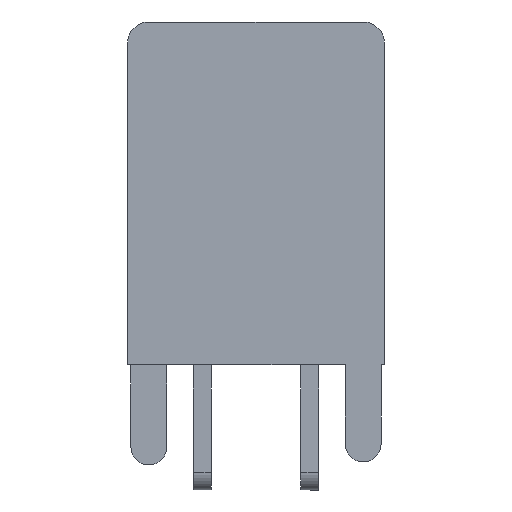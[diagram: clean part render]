
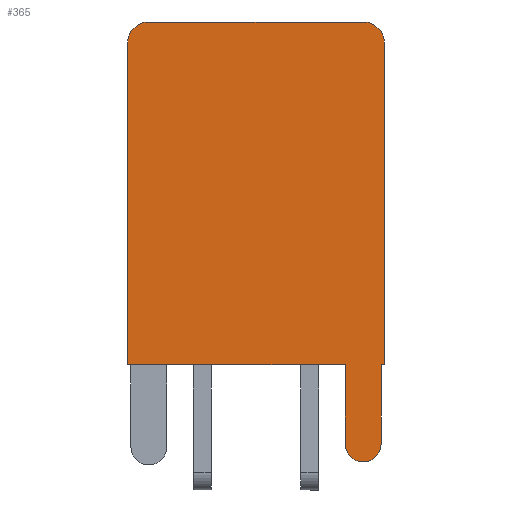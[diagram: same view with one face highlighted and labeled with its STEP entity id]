
A CAD part, left-side view. The second image highlights one B-rep face of the part: STEP entity #365.
In plain terms, the highlighted planar face has unit normal (-1, 0, 0).
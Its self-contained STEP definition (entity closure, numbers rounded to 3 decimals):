
#15 = EDGE_CURVE ( 'NONE', #16, #173, #974, .T. ) ;
#16 = VERTEX_POINT ( 'NONE', #970 ) ;
#24 = EDGE_CURVE ( 'NONE', #25, #77, #883, .T. ) ;
#25 = VERTEX_POINT ( 'NONE', #928 ) ;
#77 = VERTEX_POINT ( 'NONE', #1145 ) ;
#160 = EDGE_CURVE ( 'NONE', #161, #268, #1304, .T. ) ;
#161 = VERTEX_POINT ( 'NONE', #1209 ) ;
#162 = ORIENTED_EDGE ( 'NONE', *, *, #163, .T. ) ;
#163 = EDGE_CURVE ( 'NONE', #173, #164, #1335, .T. ) ;
#164 = VERTEX_POINT ( 'NONE', #1331 ) ;
#173 = VERTEX_POINT ( 'NONE', #1226 ) ;
#256 = EDGE_CURVE ( 'NONE', #164, #257, #1447, .T. ) ;
#257 = VERTEX_POINT ( 'NONE', #1369 ) ;
#258 = EDGE_LOOP ( 'NONE', ( #275, #261, #329, #358, #162, #264, #283, #330, #321, #270 ) ) ;
#259 = EDGE_CURVE ( 'NONE', #269, #268, #1368, .T. ) ;
#261 = ORIENTED_EDGE ( 'NONE', *, *, #262, .T. ) ;
#262 = EDGE_CURVE ( 'NONE', #161, #266, #1411, .T. ) ;
#264 = ORIENTED_EDGE ( 'NONE', *, *, #256, .T. ) ;
#266 = VERTEX_POINT ( 'NONE', #1400 ) ;
#268 = VERTEX_POINT ( 'NONE', #1398 ) ;
#269 = VERTEX_POINT ( 'NONE', #1397 ) ;
#270 = ORIENTED_EDGE ( 'NONE', *, *, #259, .T. ) ;
#275 = ORIENTED_EDGE ( 'NONE', *, *, #160, .F. ) ;
#283 = ORIENTED_EDGE ( 'NONE', *, *, #284, .T. ) ;
#284 = EDGE_CURVE ( 'NONE', #257, #25, #2971, .T. ) ;
#317 = EDGE_CURVE ( 'NONE', #269, #77, #3040, .T. ) ;
#321 = ORIENTED_EDGE ( 'NONE', *, *, #317, .F. ) ;
#329 = ORIENTED_EDGE ( 'NONE', *, *, #397, .T. ) ;
#330 = ORIENTED_EDGE ( 'NONE', *, *, #24, .T. ) ;
#358 = ORIENTED_EDGE ( 'NONE', *, *, #15, .T. ) ;
#365 = ADVANCED_FACE ( 'NONE', ( #1509 ), #1547, .F. ) ;
#397 = EDGE_CURVE ( 'NONE', #266, #16, #1645, .T. ) ;
#882 = CARTESIAN_POINT ( 'NONE',  ( -6., 3.6, 0. ) ) ;
#883 = LINE ( 'NONE', #882, #930 ) ;
#928 = CARTESIAN_POINT ( 'NONE',  ( -6., -3.5, 0. ) ) ;
#929 = DIRECTION ( 'NONE',  ( 0., -1., 0. ) ) ;
#930 = VECTOR ( 'NONE', #929, 1000. ) ;
#970 = CARTESIAN_POINT ( 'NONE',  ( -6., 3.6, 0. ) ) ;
#971 = DIRECTION ( 'NONE',  ( 0., -1., 0. ) ) ;
#972 = VECTOR ( 'NONE', #971, 1000. ) ;
#973 = CARTESIAN_POINT ( 'NONE',  ( -6., 3.6, 0. ) ) ;
#974 = LINE ( 'NONE', #973, #972 ) ;
#1145 = CARTESIAN_POINT ( 'NONE',  ( -6., -3.6, 0. ) ) ;
#1209 = CARTESIAN_POINT ( 'NONE',  ( -6., 3., 9.6 ) ) ;
#1210 = DIRECTION ( 'NONE',  ( 0., -1., 0. ) ) ;
#1211 = VECTOR ( 'NONE', #1210, 1000. ) ;
#1226 = CARTESIAN_POINT ( 'NONE',  ( -6., -2.5, 0. ) ) ;
#1273 = CARTESIAN_POINT ( 'NONE',  ( -6., 3.6, 9.6 ) ) ;
#1304 = LINE ( 'NONE', #1273, #1211 ) ;
#1331 = CARTESIAN_POINT ( 'NONE',  ( -6., -2.5, -2.213 ) ) ;
#1332 = DIRECTION ( 'NONE',  ( 0., 0., -1. ) ) ;
#1333 = VECTOR ( 'NONE', #1332, 1000. ) ;
#1334 = CARTESIAN_POINT ( 'NONE',  ( -6., -2.5, -2.213 ) ) ;
#1335 = LINE ( 'NONE', #1334, #1333 ) ;
#1367 = CARTESIAN_POINT ( 'NONE',  ( -6., -3., 9. ) ) ;
#1368 = CIRCLE ( 'NONE', #1416, 0.6 ) ;
#1369 = CARTESIAN_POINT ( 'NONE',  ( -6., -3.5, -2.213 ) ) ;
#1370 = DIRECTION ( 'NONE',  ( 0., 1., 0. ) ) ;
#1371 = DIRECTION ( 'NONE',  ( -1., 0., 0. ) ) ;
#1372 = CARTESIAN_POINT ( 'NONE',  ( -6., -3., -2.213 ) ) ;
#1373 = AXIS2_PLACEMENT_3D ( 'NONE', #1372, #1371, #1370 ) ;
#1397 = CARTESIAN_POINT ( 'NONE',  ( -6., -3.6, 9. ) ) ;
#1398 = CARTESIAN_POINT ( 'NONE',  ( -6., -3., 9.6 ) ) ;
#1400 = CARTESIAN_POINT ( 'NONE',  ( -6., 3.6, 9. ) ) ;
#1407 = DIRECTION ( 'NONE',  ( 0., 1., 0. ) ) ;
#1408 = DIRECTION ( 'NONE',  ( -1., 0., 0. ) ) ;
#1409 = CARTESIAN_POINT ( 'NONE',  ( -6., 3., 9. ) ) ;
#1410 = AXIS2_PLACEMENT_3D ( 'NONE', #1409, #1408, #1407 ) ;
#1411 = CIRCLE ( 'NONE', #1410, 0.6 ) ;
#1414 = DIRECTION ( 'NONE',  ( 0., 1., 0. ) ) ;
#1415 = DIRECTION ( 'NONE',  ( -1., 0., 0. ) ) ;
#1416 = AXIS2_PLACEMENT_3D ( 'NONE', #1367, #1415, #1414 ) ;
#1447 = CIRCLE ( 'NONE', #1373, 0.5 ) ;
#1509 = FACE_OUTER_BOUND ( 'NONE', #258, .T. ) ;
#1547 = PLANE ( 'NONE',  #1583 ) ;
#1550 = CARTESIAN_POINT ( 'NONE',  ( -6., 3.6, 9.6 ) ) ;
#1579 = DIRECTION ( 'NONE',  ( 1., 0., 0. ) ) ;
#1582 = DIRECTION ( 'NONE',  ( 0., 1., 0. ) ) ;
#1583 = AXIS2_PLACEMENT_3D ( 'NONE', #1550, #1579, #1582 ) ;
#1643 = DIRECTION ( 'NONE',  ( 0., 0., -1. ) ) ;
#1644 = CARTESIAN_POINT ( 'NONE',  ( -6., 3.6, 9.6 ) ) ;
#1645 = LINE ( 'NONE', #1644, #1682 ) ;
#1682 = VECTOR ( 'NONE', #1643, 1000. ) ;
#2968 = DIRECTION ( 'NONE',  ( 0., 0., 1. ) ) ;
#2969 = VECTOR ( 'NONE', #2968, 1000. ) ;
#2970 = CARTESIAN_POINT ( 'NONE',  ( -6., -3.5, 0. ) ) ;
#2971 = LINE ( 'NONE', #2970, #2969 ) ;
#3037 = DIRECTION ( 'NONE',  ( 0., 0., -1. ) ) ;
#3038 = VECTOR ( 'NONE', #3037, 1000. ) ;
#3039 = CARTESIAN_POINT ( 'NONE',  ( -6., -3.6, 9.6 ) ) ;
#3040 = LINE ( 'NONE', #3039, #3038 ) ;
